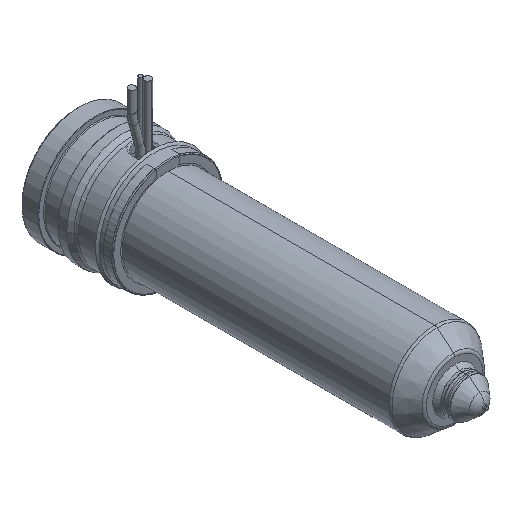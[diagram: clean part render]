
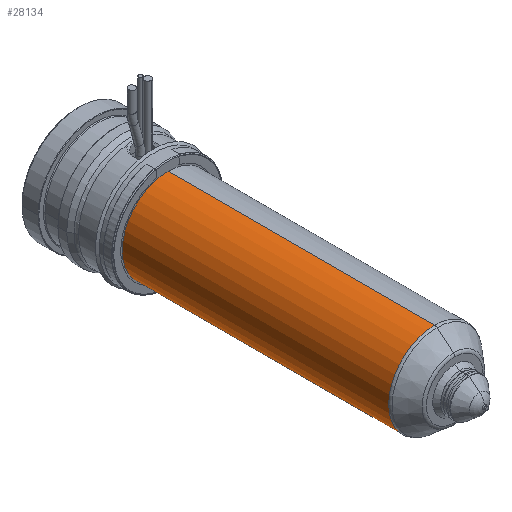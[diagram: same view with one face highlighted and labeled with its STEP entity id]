
A CAD part, isometric view. The second image highlights one B-rep face of the part: STEP entity #28134.
In plain terms, the highlighted cylindrical face has radius 12 mm (diameter 24 mm), a partial arc.
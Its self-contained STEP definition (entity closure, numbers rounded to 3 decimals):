
#27521=CARTESIAN_POINT('',(0.,-93.736,0.));
#27522=DIRECTION('',(0.,-1.,0.));
#27523=DIRECTION('',(0.,0.,1.));
#27524=AXIS2_PLACEMENT_3D('',#27521,#27522,#27523);
#27529=CARTESIAN_POINT('',(0.,-24.,0.));
#27530=DIRECTION('',(0.,1.,0.));
#27531=DIRECTION('',(0.,0.,-1.));
#27532=AXIS2_PLACEMENT_3D('',#27529,#27530,#27531);
#27537=DIRECTION('',(0.,1.,0.));
#27538=VECTOR('',#27537,69.736);
#27539=CARTESIAN_POINT('',(0.,-93.736,12.));
#27540=LINE('',#27539,#27538);
#27552=DIRECTION('',(0.,1.,0.));
#27553=VECTOR('',#27552,69.736);
#27554=CARTESIAN_POINT('',(0.,-93.736,-12.));
#27555=LINE('',#27554,#27553);
#27739=CARTESIAN_POINT('',(0.,-93.736,12.));
#27740=CARTESIAN_POINT('',(0.,-24.,12.));
#27741=VERTEX_POINT('',#27739);
#27742=VERTEX_POINT('',#27740);
#27743=CARTESIAN_POINT('',(0.,-93.736,-12.));
#27744=CARTESIAN_POINT('',(0.,-24.,-12.));
#27745=VERTEX_POINT('',#27743);
#27746=VERTEX_POINT('',#27744);
#28120=CARTESIAN_POINT('',(0.,-15.625,0.));
#28121=DIRECTION('',(0.,-1.,0.));
#28122=DIRECTION('',(0.,0.,1.));
#28123=AXIS2_PLACEMENT_3D('',#28120,#28121,#28122);
#28124=CYLINDRICAL_SURFACE('',#28123,12.);
#28126=ORIENTED_EDGE('',*,*,#28125,.F.);
#28127=ORIENTED_EDGE('',*,*,#28115,.T.);
#28129=ORIENTED_EDGE('',*,*,#28128,.T.);
#28131=ORIENTED_EDGE('',*,*,#28130,.T.);
#28132=EDGE_LOOP('',(#28126,#28127,#28129,#28131));
#28133=FACE_OUTER_BOUND('',#28132,.F.);
#28134=ADVANCED_FACE('',(#28133),#28124,.T.);
#27525=CIRCLE('',#27524,12.);
#27533=CIRCLE('',#27532,12.);
#28115=EDGE_CURVE('',#27741,#27745,#27525,.T.);
#28125=EDGE_CURVE('',#27741,#27742,#27540,.T.);
#28128=EDGE_CURVE('',#27745,#27746,#27555,.T.);
#28130=EDGE_CURVE('',#27746,#27742,#27533,.T.);
